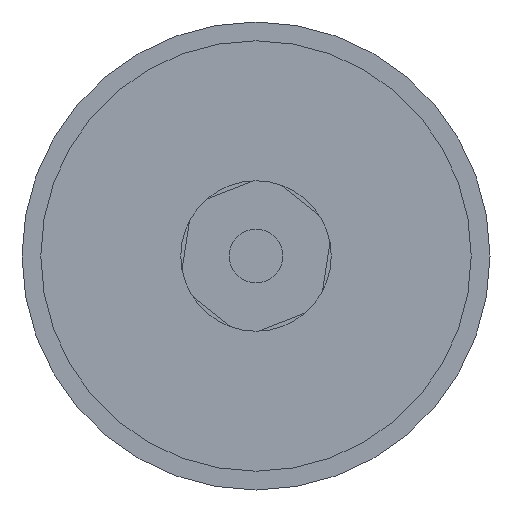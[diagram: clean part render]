
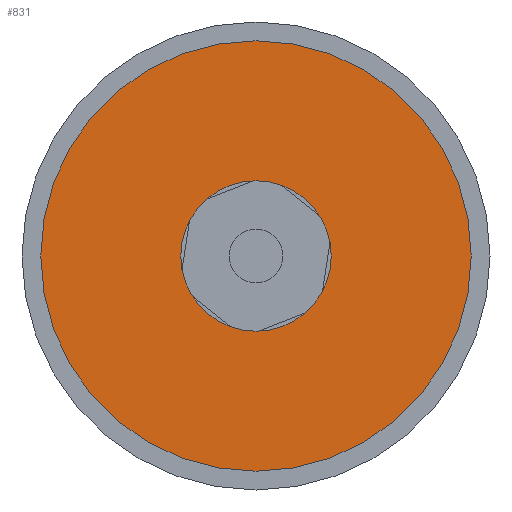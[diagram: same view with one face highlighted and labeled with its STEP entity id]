
A CAD part, front view. The second image highlights one B-rep face of the part: STEP entity #831.
In plain terms, the highlighted planar face has unit normal (0, -1, 0).
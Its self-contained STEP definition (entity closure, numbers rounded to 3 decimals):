
#11 = CIRCLE ( 'NONE', #458, 25.75 ) ;
#24 = AXIS2_PLACEMENT_3D ( 'NONE', #858, #313, #360 ) ;
#48 = ORIENTED_EDGE ( 'NONE', *, *, #597, .T. ) ;
#75 = CARTESIAN_POINT ( 'NONE',  ( 1.824, -11.907, 0. ) ) ;
#80 = DIRECTION ( 'NONE',  ( 0., 1., 0. ) ) ;
#95 = DIRECTION ( 'NONE',  ( 0., 0., 1. ) ) ;
#120 = CARTESIAN_POINT ( 'NONE',  ( 1.824, -11.907, 9. ) ) ;
#150 = CIRCLE ( 'NONE', #1047, 9. ) ;
#155 = VERTEX_POINT ( 'NONE', #281 ) ;
#272 = VERTEX_POINT ( 'NONE', #934 ) ;
#279 = ORIENTED_EDGE ( 'NONE', *, *, #322, .T. ) ;
#281 = CARTESIAN_POINT ( 'NONE',  ( 1.824, -11.907, -9. ) ) ;
#299 = DIRECTION ( 'NONE',  ( 0., -1., 0. ) ) ;
#313 = DIRECTION ( 'NONE',  ( 0., -1., 0. ) ) ;
#322 = EDGE_CURVE ( 'NONE', #155, #342, #150, .T. ) ;
#342 = VERTEX_POINT ( 'NONE', #120 ) ;
#352 = CIRCLE ( 'NONE', #24, 25.75 ) ;
#360 = DIRECTION ( 'NONE',  ( 0., 0., 1. ) ) ;
#458 = AXIS2_PLACEMENT_3D ( 'NONE', #1171, #1175, #1184 ) ;
#459 = EDGE_CURVE ( 'NONE', #342, #155, #1271, .T. ) ;
#551 = CARTESIAN_POINT ( 'NONE',  ( 1.824, -11.907, 0. ) ) ;
#556 = DIRECTION ( 'NONE',  ( 0., 1., 0. ) ) ;
#577 = DIRECTION ( 'NONE',  ( 0., 0., 1. ) ) ;
#597 = EDGE_CURVE ( 'NONE', #1078, #272, #11, .T. ) ;
#616 = EDGE_CURVE ( 'NONE', #272, #1078, #352, .T. ) ;
#655 = CARTESIAN_POINT ( 'NONE',  ( -23.926, -11.907, 0. ) ) ;
#683 = EDGE_LOOP ( 'NONE', ( #1034, #279 ) ) ;
#687 = DIRECTION ( 'NONE',  ( 0., 0., -1. ) ) ;
#734 = FACE_BOUND ( 'NONE', #683, .T. ) ;
#831 = ADVANCED_FACE ( 'NONE', ( #1032, #734 ), #1081, .T. ) ;
#858 = CARTESIAN_POINT ( 'NONE',  ( 1.824, -11.907, 0. ) ) ;
#927 = ORIENTED_EDGE ( 'NONE', *, *, #616, .T. ) ;
#932 = AXIS2_PLACEMENT_3D ( 'NONE', #551, #556, #577 ) ;
#934 = CARTESIAN_POINT ( 'NONE',  ( 1.824, -11.907, 25.75 ) ) ;
#1008 = CARTESIAN_POINT ( 'NONE',  ( 1.824, -11.907, -25.75 ) ) ;
#1032 = FACE_OUTER_BOUND ( 'NONE', #1211, .T. ) ;
#1034 = ORIENTED_EDGE ( 'NONE', *, *, #459, .T. ) ;
#1047 = AXIS2_PLACEMENT_3D ( 'NONE', #75, #80, #95 ) ;
#1069 = AXIS2_PLACEMENT_3D ( 'NONE', #655, #299, #687 ) ;
#1078 = VERTEX_POINT ( 'NONE', #1008 ) ;
#1081 = PLANE ( 'NONE',  #1069 ) ;
#1171 = CARTESIAN_POINT ( 'NONE',  ( 1.824, -11.907, 0. ) ) ;
#1175 = DIRECTION ( 'NONE',  ( 0., -1., 0. ) ) ;
#1184 = DIRECTION ( 'NONE',  ( 0., 0., 1. ) ) ;
#1211 = EDGE_LOOP ( 'NONE', ( #927, #48 ) ) ;
#1271 = CIRCLE ( 'NONE', #932, 9. ) ;
